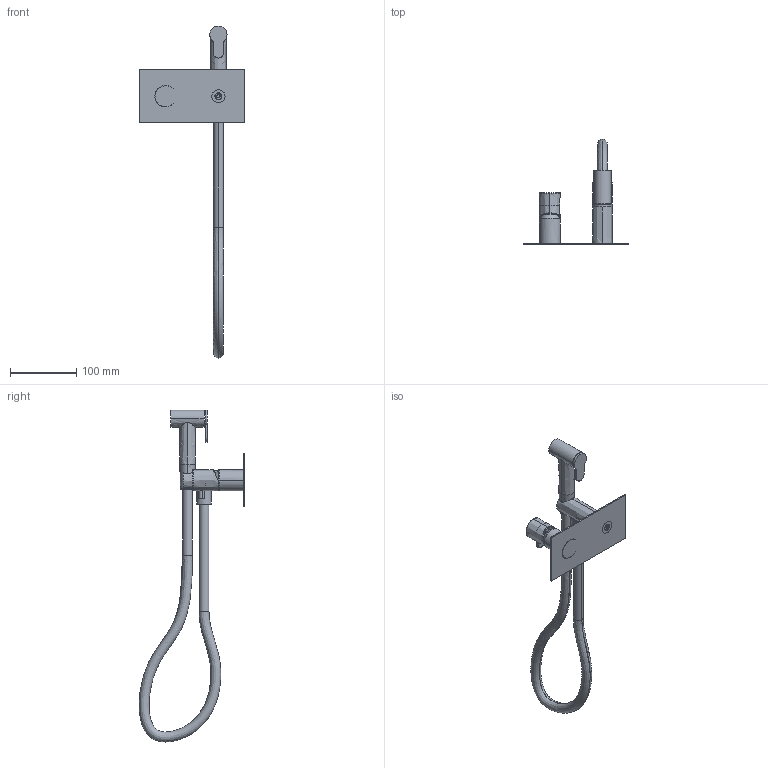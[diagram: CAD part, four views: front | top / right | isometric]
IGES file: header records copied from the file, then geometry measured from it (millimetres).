
Start section:  PTC IGES file: 69500.igs
Global section: file name: 69500.igs; native system: Creo Parametric by PTC Inc.; preprocessor: 2022014; author: carloff; organization: Unknown; date: 20230921.111413; units: millimetre
Bounding box: 160 x 160.35 x 502.68 mm (x, y, z)
Surface area: 124517.8 mm2 (no closed solid volume)
Topology: 0 solids, 0 shells, 238 faces, 1134 edges, 1128 vertices
Faces by surface type: revolution 158, bspline 80
